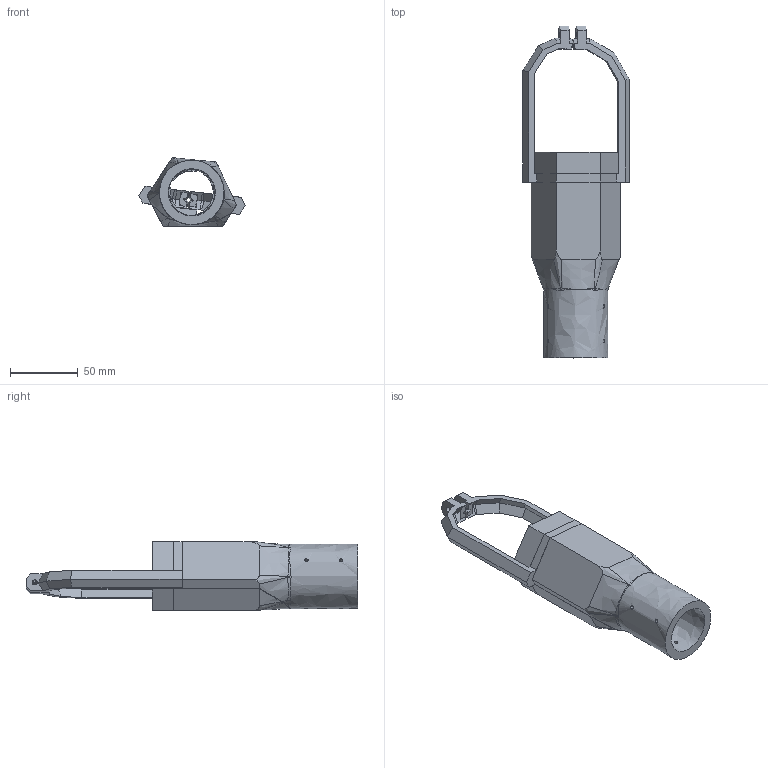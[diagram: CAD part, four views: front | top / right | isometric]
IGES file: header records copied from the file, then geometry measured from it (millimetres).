
Global section: file name: cane mount; native system: Autodesk Inventor 2016; preprocessor: unknown; author: Z; date: 20151030.083307; units: inch
Bounding box: 78.8 x 245.75 x 50.82 mm (x, y, z)
Volume: 133962 mm3; surface area: 69530 mm2
Topology: 4 solids, 4 shells, 279 faces, 769 edges, 500 vertices
Faces by surface type: bspline 279
